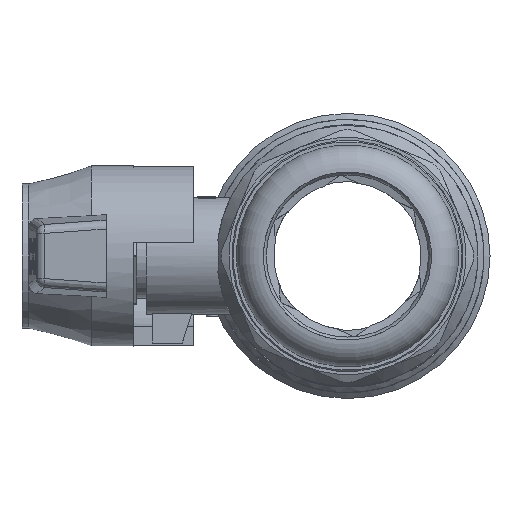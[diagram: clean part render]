
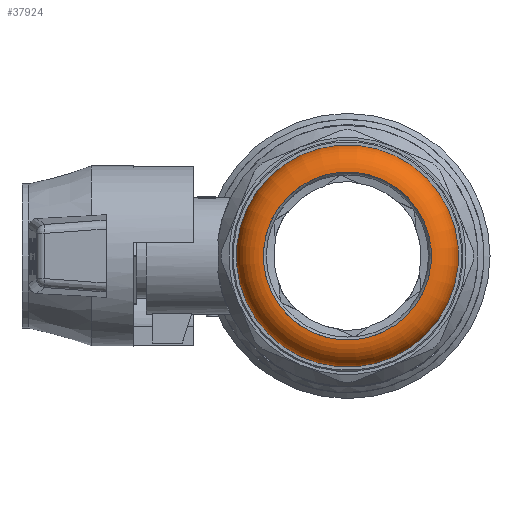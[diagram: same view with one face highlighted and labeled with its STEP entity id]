
A CAD part, left-side view. The second image highlights one B-rep face of the part: STEP entity #37924.
In plain terms, the highlighted toroidal (fillet/blend) face has major radius 14 mm and minor radius 4.5 mm.
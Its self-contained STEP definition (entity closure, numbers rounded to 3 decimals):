
#37893=CARTESIAN_POINT('',(-59.05,-14.719,10.181));
#37894=VERTEX_POINT('',#37893);
#37895=CARTESIAN_POINT('',(-59.05,0.0,0.0));
#37896=DIRECTION('',(1.,0.0,0.0));
#37897=DIRECTION('',(0.0,-0.822,0.569));
#37898=AXIS2_PLACEMENT_3D('',#37895,#37896,#37897);
#37899=CIRCLE('',#37898,17.897);
#37900=EDGE_CURVE('',#37894,#37894,#37899,.T.);
#37905=CARTESIAN_POINT('',(-61.3,0.,0.));
#37906=DIRECTION('',(1.0,0.0,0.0));
#37907=DIRECTION('',(0.0,0.0,-1.0));
#37908=AXIS2_PLACEMENT_3D('',#37905,#37906,#37907);
#37909=TOROIDAL_SURFACE('',#37908,14.,4.5);
#37910=CARTESIAN_POINT('',(-65.8,-11.514,7.964));
#37911=VERTEX_POINT('',#37910);
#37912=CARTESIAN_POINT('',(-65.8,0.,0.));
#37913=DIRECTION('',(1.,0.0,0.0));
#37914=DIRECTION('',(0.0,0.822,-0.569));
#37915=AXIS2_PLACEMENT_3D('',#37912,#37913,#37914);
#37916=CIRCLE('',#37915,14.);
#37917=EDGE_CURVE('',#37911,#37911,#37916,.T.);
#37918=ORIENTED_EDGE('',*,*,#37917,.T.);
#37919=EDGE_LOOP('',(#37918));
#37920=FACE_OUTER_BOUND('',#37919,.T.);
#37921=ORIENTED_EDGE('',*,*,#37900,.F.);
#37922=EDGE_LOOP('',(#37921));
#37923=FACE_BOUND('',#37922,.T.);
#37924=ADVANCED_FACE('',(#37920,#37923),#37909,.T.);
